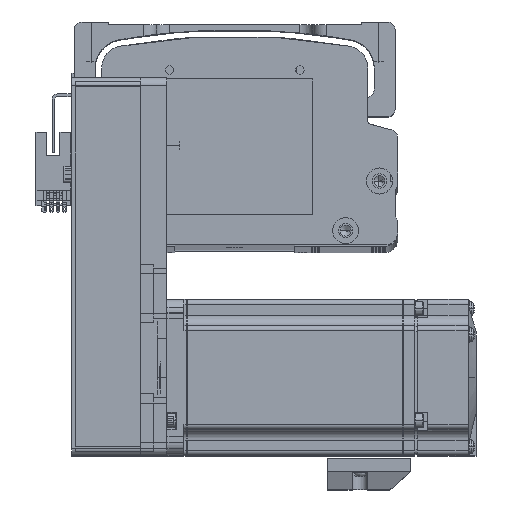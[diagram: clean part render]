
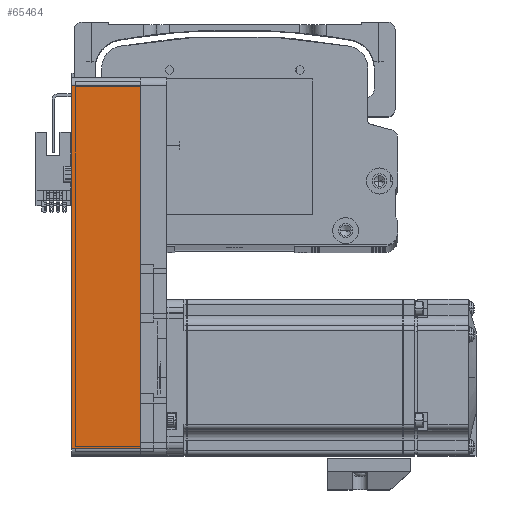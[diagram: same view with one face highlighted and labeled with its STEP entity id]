
A CAD part, top view. The second image highlights one B-rep face of the part: STEP entity #65464.
In plain terms, the highlighted planar face has unit normal (0, 0, 1) as drawn and (0, 1, 0) by its records, which use the part's own axes.
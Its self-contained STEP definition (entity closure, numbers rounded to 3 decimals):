
#1442 = CARTESIAN_POINT ( 'NONE',  ( 72.5, 30., 26.5 ) ) ;
#5571 = ORIENTED_EDGE ( 'NONE', *, *, #54944, .T. ) ;
#7533 = VECTOR ( 'NONE', #77528, 1000. ) ;
#11481 = CARTESIAN_POINT ( 'NONE',  ( 72.5, 30., 26.5 ) ) ;
#18178 = DIRECTION ( 'NONE',  ( 1., 0., 0. ) ) ;
#18346 = CARTESIAN_POINT ( 'NONE',  ( 69.5, 30., 0. ) ) ;
#22395 = EDGE_LOOP ( 'NONE', ( #65779, #5571, #52465, #73787 ) ) ;
#23090 = LINE ( 'NONE', #65997, #58856 ) ;
#25281 = VECTOR ( 'NONE', #77249, 1000. ) ;
#26834 = FACE_OUTER_BOUND ( 'NONE', #22395, .T. ) ;
#27389 = LINE ( 'NONE', #70536, #25281 ) ;
#33399 = CARTESIAN_POINT ( 'NONE',  ( 69.5, 30., 26.5 ) ) ;
#35454 = CARTESIAN_POINT ( 'NONE',  ( -69.5, 30., 26.5 ) ) ;
#37852 = PLANE ( 'NONE',  #61614 ) ;
#39550 = LINE ( 'NONE', #1442, #75168 ) ;
#41124 = VERTEX_POINT ( 'NONE', #18346 ) ;
#45323 = EDGE_CURVE ( 'NONE', #74317, #50917, #39550, .T. ) ;
#45724 = DIRECTION ( 'NONE',  ( -1., 0., 0. ) ) ;
#48373 = DIRECTION ( 'NONE',  ( -1., 0., 0. ) ) ;
#49877 = EDGE_CURVE ( 'NONE', #74317, #41124, #27389, .T. ) ;
#50917 = VERTEX_POINT ( 'NONE', #35454 ) ;
#52465 = ORIENTED_EDGE ( 'NONE', *, *, #45323, .F. ) ;
#53062 = CARTESIAN_POINT ( 'NONE',  ( -69.5, 30., 0. ) ) ;
#54944 = EDGE_CURVE ( 'NONE', #81085, #50917, #78860, .T. ) ;
#57434 = CARTESIAN_POINT ( 'NONE',  ( -69.5, 30., 26.5 ) ) ;
#58445 = DIRECTION ( 'NONE',  ( 0., -1., 0. ) ) ;
#58856 = VECTOR ( 'NONE', #45724, 1000. ) ;
#61614 = AXIS2_PLACEMENT_3D ( 'NONE', #11481, #58445, #18178 ) ;
#65464 = ADVANCED_FACE ( 'NONE', ( #26834 ), #37852, .F. ) ;
#65779 = ORIENTED_EDGE ( 'NONE', *, *, #82756, .T. ) ;
#65997 = CARTESIAN_POINT ( 'NONE',  ( 72.5, 30., 0. ) ) ;
#70536 = CARTESIAN_POINT ( 'NONE',  ( 69.5, 30., 26.5 ) ) ;
#73787 = ORIENTED_EDGE ( 'NONE', *, *, #49877, .T. ) ;
#74317 = VERTEX_POINT ( 'NONE', #33399 ) ;
#75168 = VECTOR ( 'NONE', #48373, 1000. ) ;
#77249 = DIRECTION ( 'NONE',  ( 0., 0., -1. ) ) ;
#77528 = DIRECTION ( 'NONE',  ( 0., 0., 1. ) ) ;
#78860 = LINE ( 'NONE', #57434, #7533 ) ;
#81085 = VERTEX_POINT ( 'NONE', #53062 ) ;
#82756 = EDGE_CURVE ( 'NONE', #41124, #81085, #23090, .T. ) ;
